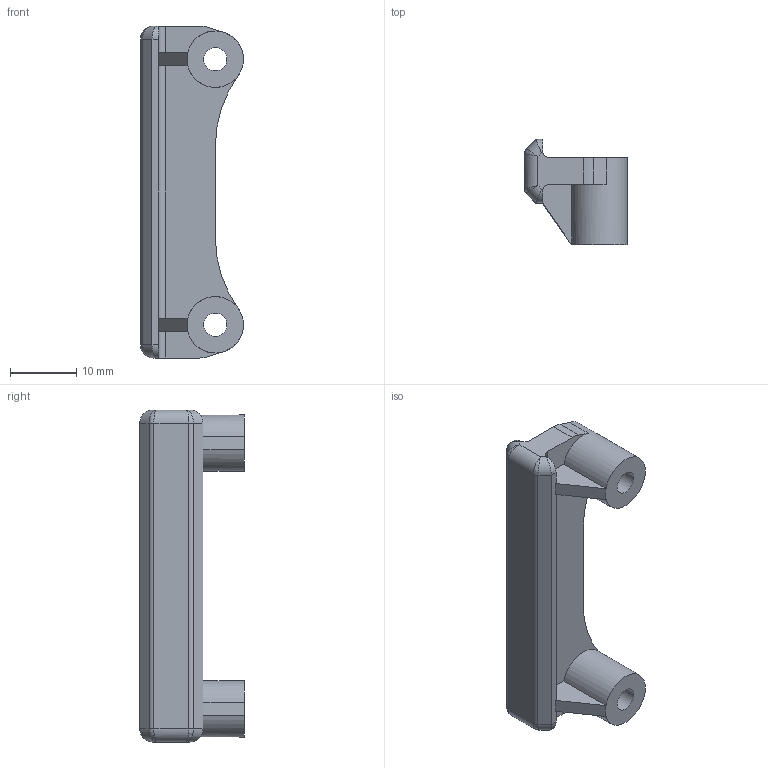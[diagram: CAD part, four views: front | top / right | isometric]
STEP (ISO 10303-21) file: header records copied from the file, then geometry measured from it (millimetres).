
FILE_DESCRIPTION(/* description */ (''),/* implementation_level */ '2;1');
FILE_NAME(/* name */ 'C:/Users/Ulises/Desktop/T1/mecanica_cad/patines_3dprint.step',/* time_stamp */ '2020-10-16T01:29:21-03:00',/* author */ (''),/* organization */ (''),/* preprocessor_version */ 'ST-DEVELOPER v18.1',/* originating_system */ 'Autodesk Translation Framework v9.3.0.1241',/* authorisation */ '');
FILE_SCHEMA (('AUTOMOTIVE_DESIGN { 1 0 10303 214 3 1 1 }'));
Length unit declared in the file: millimetre
Products named in the file (1): patines_3dprint
Bounding box: 15.51 x 15.76 x 50 mm (x, y, z)
Volume: 3914.2 mm3; surface area: 3026.8 mm2
Topology: 1 solids, 1 shells, 68 faces, 180 edges, 112 vertices
Faces by surface type: plane 38, cylinder 26, bspline 4
Full cylindrical faces by diameter (mm): 3.5 x2
Entity records: 2180 total; most frequent: CARTESIAN_POINT 445, DIRECTION 354, ORIENTED_EDGE 352, EDGE_CURVE 176, LINE 120, VECTOR 120, AXIS2_PLACEMENT_3D 117, VERTEX_POINT 112
